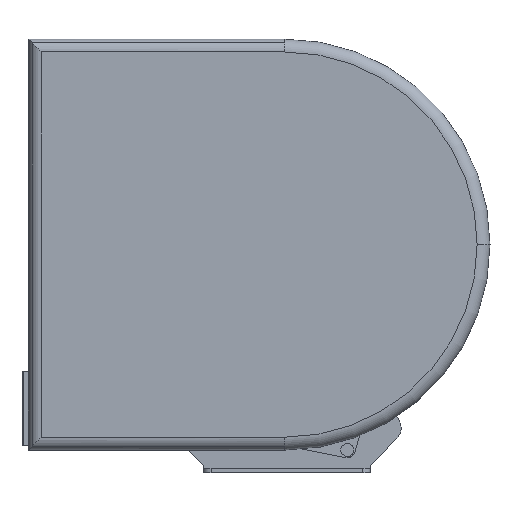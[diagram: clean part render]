
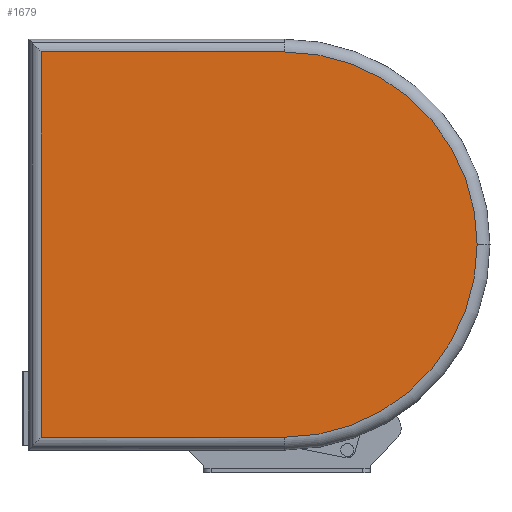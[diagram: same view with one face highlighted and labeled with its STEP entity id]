
A CAD part, top view. The second image highlights one B-rep face of the part: STEP entity #1679.
In plain terms, the highlighted planar face has unit normal (0, 0, 1).
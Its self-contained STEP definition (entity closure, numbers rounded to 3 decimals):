
#1679=ADVANCED_FACE('',(#2978),#2979,.T.);
#2978=FACE_OUTER_BOUND('',#4747,.T.);
#2979=PLANE('',#4748);
#4747=EDGE_LOOP('',(#6302,#6303,#6304,#6305,#6306));
#4748=AXIS2_PLACEMENT_3D('',#6307,#6308,#6309);
#6302=ORIENTED_EDGE('',*,*,#7866,.F.);
#6303=ORIENTED_EDGE('',*,*,#7870,.F.);
#6304=ORIENTED_EDGE('',*,*,#7872,.F.);
#6305=ORIENTED_EDGE('',*,*,#7582,.F.);
#6306=ORIENTED_EDGE('',*,*,#7875,.F.);
#6307=CARTESIAN_POINT('',(144.929,177.0,440.0));
#6308=DIRECTION('',(0.,0.,1.0));
#6309=DIRECTION('',(1.0,0.0,0.));
#7582=EDGE_CURVE('',#8723,#8720,#8725,.T.);
#7866=EDGE_CURVE('',#9150,#9152,#9153,.T.);
#7870=EDGE_CURVE('',#9156,#9150,#9158,.T.);
#7872=EDGE_CURVE('',#8720,#9156,#9160,.T.);
#7875=EDGE_CURVE('',#9152,#8723,#9163,.T.);
#8720=VERTEX_POINT('',#9564);
#8723=VERTEX_POINT('',#9567);
#8725=CIRCLE('',#9569,150.0);
#9150=VERTEX_POINT('',#10125);
#9152=VERTEX_POINT('',#10127);
#9153=LINE('',#10128,#10129);
#9156=VERTEX_POINT('',#10132);
#9158=LINE('',#10134,#10135);
#9160=CIRCLE('',#10137,150.0);
#9163=LINE('',#10140,#10141);
#9564=CARTESIAN_POINT('',(354.4,177.0,440.0));
#9567=CARTESIAN_POINT('',(204.4,327.0,440.0));
#9569=AXIS2_PLACEMENT_3D('',#10509,#10510,#10511);
#10125=CARTESIAN_POINT('',(15.,27.0,440.0));
#10127=CARTESIAN_POINT('',(15.0,327.0,440.0));
#10128=CARTESIAN_POINT('',(15.0,257.0,440.0));
#10129=VECTOR('',#10883,10.0);
#10132=CARTESIAN_POINT('',(204.4,27.0,440.0));
#10134=CARTESIAN_POINT('',(74.964,27.0,440.0));
#10135=VECTOR('',#10890,10.0);
#10137=AXIS2_PLACEMENT_3D('',#10891,#10892,#10893);
#10140=CARTESIAN_POINT('',(174.664,327.0,440.0));
#10141=VECTOR('',#10897,10.0);
#10509=CARTESIAN_POINT('',(204.4,177.0,440.0));
#10510=DIRECTION('',(0.,0.,-1.0));
#10511=DIRECTION('',(1.0,0.,0.));
#10883=DIRECTION('',(0.,1.0,0.));
#10890=DIRECTION('',(-1.0,0.,0.));
#10891=CARTESIAN_POINT('',(204.4,177.0,440.0));
#10892=DIRECTION('',(0.,0.,-1.0));
#10893=DIRECTION('',(1.0,0.,0.));
#10897=DIRECTION('',(1.0,0.,0.));
